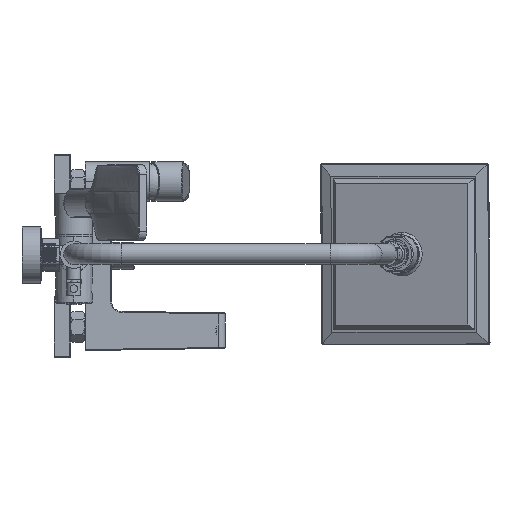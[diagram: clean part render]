
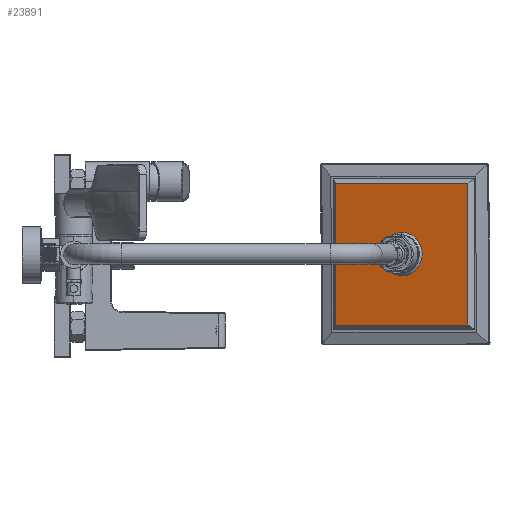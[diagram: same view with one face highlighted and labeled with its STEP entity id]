
A CAD part, top view. The second image highlights one B-rep face of the part: STEP entity #23891.
In plain terms, the highlighted planar face has unit normal (-0.359, 0, 0.933).
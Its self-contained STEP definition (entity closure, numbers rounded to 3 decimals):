
#2987=PLANE('',#89635);
#9329=LINE('',#185901,#16918);
#9330=LINE('',#185904,#16919);
#9331=LINE('',#185906,#16920);
#9332=LINE('',#185908,#16921);
#16918=VECTOR('',#106331,1.);
#16919=VECTOR('',#106332,1.);
#16920=VECTOR('',#106333,1.);
#16921=VECTOR('',#106334,1.);
#20318=FACE_BOUND('',#35385,.T.);
#20319=FACE_BOUND('',#35386,.T.);
#23891=ADVANCED_FACE('',(#20318,#20319),#2987,.T.);
#35385=EDGE_LOOP('',(#56908,#56909));
#35386=EDGE_LOOP('',(#56910,#56911,#56912,#56913));
#37974=CIRCLE('',#89633,23.);
#37975=CIRCLE('',#89634,23.);
#56908=ORIENTED_EDGE('',*,*,#80067,.T.);
#56909=ORIENTED_EDGE('',*,*,#80068,.T.);
#56910=ORIENTED_EDGE('',*,*,#80069,.T.);
#56911=ORIENTED_EDGE('',*,*,#80070,.T.);
#56912=ORIENTED_EDGE('',*,*,#80071,.T.);
#56913=ORIENTED_EDGE('',*,*,#80072,.T.);
#69133=VERTEX_POINT('',#185898);
#69134=VERTEX_POINT('',#185899);
#69135=VERTEX_POINT('',#185902);
#69136=VERTEX_POINT('',#185903);
#69137=VERTEX_POINT('',#185905);
#69138=VERTEX_POINT('',#185907);
#80067=EDGE_CURVE('',#69133,#69134,#37974,.T.);
#80068=EDGE_CURVE('',#69134,#69133,#37975,.T.);
#80069=EDGE_CURVE('',#69135,#69136,#9329,.T.);
#80070=EDGE_CURVE('',#69136,#69137,#9330,.T.);
#80071=EDGE_CURVE('',#69137,#69138,#9331,.T.);
#80072=EDGE_CURVE('',#69138,#69135,#9332,.T.);
#89633=AXIS2_PLACEMENT_3D('',#185897,#106327,#106328);
#89634=AXIS2_PLACEMENT_3D('',#185900,#106329,#106330);
#89635=AXIS2_PLACEMENT_3D('',#185909,#106335,#106336);
#106327=DIRECTION('',(0.359,0.,-0.933));
#106328=DIRECTION('',(0.007,-1.,0.003));
#106329=DIRECTION('',(0.359,0.,-0.933));
#106330=DIRECTION('',(-0.007,1.,-0.003));
#106331=DIRECTION('',(-0.933,0.,-0.359));
#106332=DIRECTION('',(0.,-1.,0.));
#106333=DIRECTION('',(0.933,0.,0.359));
#106334=DIRECTION('',(0.,1.,0.));
#106335=DIRECTION('',(-0.359,0.,0.933));
#106336=DIRECTION('',(-0.007,1.,-0.003));
#185897=CARTESIAN_POINT('',(286.807,0.506,1163.241));
#185898=CARTESIAN_POINT('',(286.644,23.505,1163.178));
#185899=CARTESIAN_POINT('',(286.644,-22.494,1163.178));
#185900=CARTESIAN_POINT('',(286.807,0.506,1163.241));
#185901=CARTESIAN_POINT('',(212.147,75.521,1134.504));
#185902=CARTESIAN_POINT('',(356.802,75.521,1190.181));
#185903=CARTESIAN_POINT('',(216.813,75.521,1136.3));
#185904=CARTESIAN_POINT('',(216.813,-74.51,1136.3));
#185905=CARTESIAN_POINT('',(216.813,-74.51,1136.3));
#185906=CARTESIAN_POINT('',(356.802,-74.51,1190.181));
#185907=CARTESIAN_POINT('',(356.802,-74.51,1190.181));
#185908=CARTESIAN_POINT('',(356.802,80.521,1190.181));
#185909=CARTESIAN_POINT('',(215.922,125.43,1135.957));
